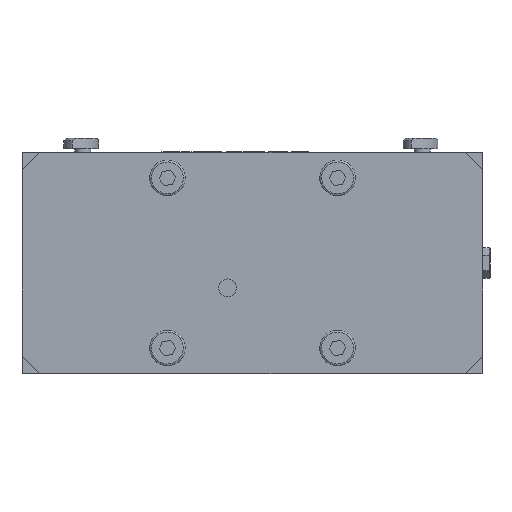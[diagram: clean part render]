
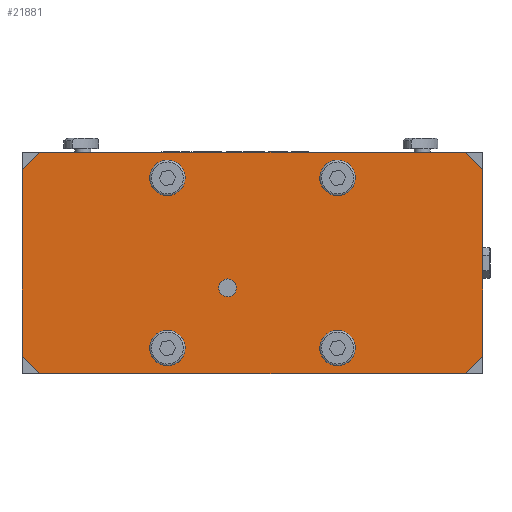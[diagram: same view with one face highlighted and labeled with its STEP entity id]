
A CAD part, front view. The second image highlights one B-rep face of the part: STEP entity #21881.
In plain terms, the highlighted planar face has unit normal (0, -1, 0).
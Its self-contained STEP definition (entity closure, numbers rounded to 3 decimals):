
#4 = EDGE_CURVE ( 'NONE', #32578, #29785, #31750, .T. ) ;
#124 = CARTESIAN_POINT ( 'NONE',  ( 48., 0., -39.5 ) ) ;
#457 = CARTESIAN_POINT ( 'NONE',  ( -14., 0., -14. ) ) ;
#555 = LINE ( 'NONE', #32071, #3822 ) ;
#981 = LINE ( 'NONE', #27353, #27862 ) ;
#1223 = VECTOR ( 'NONE', #14133, 1000. ) ;
#1285 = ORIENTED_EDGE ( 'NONE', *, *, #10963, .T. ) ;
#1445 = CARTESIAN_POINT ( 'NONE',  ( 130., 0., -52.5 ) ) ;
#1495 = PLANE ( 'NONE',  #30636 ) ;
#1787 = VERTEX_POINT ( 'NONE', #1445 ) ;
#1833 = ORIENTED_EDGE ( 'NONE', *, *, #30226, .F. ) ;
#1851 = FACE_OUTER_BOUND ( 'NONE', #12837, .T. ) ;
#3501 = CARTESIAN_POINT ( 'NONE',  ( -14., 0., -19. ) ) ;
#3736 = DIRECTION ( 'NONE',  ( 0., 0., 1. ) ) ;
#3822 = VECTOR ( 'NONE', #26916, 1000. ) ;
#3985 = CARTESIAN_POINT ( 'NONE',  ( -120., 0., -62.5 ) ) ;
#3989 = VERTEX_POINT ( 'NONE', #18550 ) ;
#4595 = CARTESIAN_POINT ( 'NONE',  ( 130., 0., -62.5 ) ) ;
#5204 = DIRECTION ( 'NONE',  ( -1., 0., 0. ) ) ;
#5378 = LINE ( 'NONE', #18787, #26250 ) ;
#5464 = EDGE_CURVE ( 'NONE', #3989, #1787, #555, .T. ) ;
#5658 = CIRCLE ( 'NONE', #24288, 8.5 ) ;
#5765 = DIRECTION ( 'NONE',  ( 0., 0., 1. ) ) ;
#6296 = EDGE_LOOP ( 'NONE', ( #13109 ) ) ;
#6455 = ORIENTED_EDGE ( 'NONE', *, *, #8577, .T. ) ;
#6678 = AXIS2_PLACEMENT_3D ( 'NONE', #33761, #10309, #26053 ) ;
#6684 = EDGE_CURVE ( 'NONE', #29934, #25812, #16881, .T. ) ;
#7157 = LINE ( 'NONE', #4595, #22646 ) ;
#8577 = EDGE_CURVE ( 'NONE', #19518, #29934, #30338, .T. ) ;
#9641 = CARTESIAN_POINT ( 'NONE',  ( -130., 0., -62.5 ) ) ;
#10075 = FACE_BOUND ( 'NONE', #28385, .T. ) ;
#10088 = LINE ( 'NONE', #18158, #13534 ) ;
#10309 = DIRECTION ( 'NONE',  ( 0., 1., 0. ) ) ;
#10564 = CIRCLE ( 'NONE', #29698, 8.5 ) ;
#10963 = EDGE_CURVE ( 'NONE', #12932, #32578, #981, .T. ) ;
#11035 = CARTESIAN_POINT ( 'NONE',  ( 130., 0., 62.5 ) ) ;
#11200 = EDGE_CURVE ( 'NONE', #3989, #25812, #5378, .T. ) ;
#11474 = CARTESIAN_POINT ( 'NONE',  ( -48., 0., 48. ) ) ;
#12254 = ORIENTED_EDGE ( 'NONE', *, *, #6684, .T. ) ;
#12255 = CIRCLE ( 'NONE', #26439, 8.5 ) ;
#12449 = VERTEX_POINT ( 'NONE', #23586 ) ;
#12465 = FACE_BOUND ( 'NONE', #21537, .T. ) ;
#12709 = EDGE_CURVE ( 'NONE', #29785, #19518, #10088, .T. ) ;
#12837 = EDGE_LOOP ( 'NONE', ( #32455, #13462, #6455, #12254, #15936, #20650, #16629, #1285 ) ) ;
#12841 = DIRECTION ( 'NONE',  ( 0., 1., 0. ) ) ;
#12932 = VERTEX_POINT ( 'NONE', #21952 ) ;
#13109 = ORIENTED_EDGE ( 'NONE', *, *, #17485, .T. ) ;
#13331 = CARTESIAN_POINT ( 'NONE',  ( -48., 0., -39.5 ) ) ;
#13462 = ORIENTED_EDGE ( 'NONE', *, *, #12709, .T. ) ;
#13534 = VECTOR ( 'NONE', #31137, 1000. ) ;
#14133 = DIRECTION ( 'NONE',  ( -1., 0., 0. ) ) ;
#14584 = FACE_BOUND ( 'NONE', #18981, .T. ) ;
#14748 = FACE_BOUND ( 'NONE', #26787, .T. ) ;
#15732 = CARTESIAN_POINT ( 'NONE',  ( 48., 0., 56.5 ) ) ;
#15936 = ORIENTED_EDGE ( 'NONE', *, *, #11200, .F. ) ;
#16461 = EDGE_CURVE ( 'NONE', #21007, #21007, #20904, .T. ) ;
#16629 = ORIENTED_EDGE ( 'NONE', *, *, #17472, .F. ) ;
#16688 = ORIENTED_EDGE ( 'NONE', *, *, #21757, .T. ) ;
#16881 = LINE ( 'NONE', #3985, #23561 ) ;
#17116 = DIRECTION ( 'NONE',  ( -0.707, 0., 0.707 ) ) ;
#17325 = VECTOR ( 'NONE', #24888, 1000. ) ;
#17358 = ORIENTED_EDGE ( 'NONE', *, *, #32031, .T. ) ;
#17472 = EDGE_CURVE ( 'NONE', #12932, #1787, #7157, .T. ) ;
#17485 = EDGE_CURVE ( 'NONE', #31281, #31281, #12255, .T. ) ;
#17557 = DIRECTION ( 'NONE',  ( 0.707, 0., -0.707 ) ) ;
#17562 = CIRCLE ( 'NONE', #24081, 5. ) ;
#17766 = ORIENTED_EDGE ( 'NONE', *, *, #16461, .T. ) ;
#17989 = CARTESIAN_POINT ( 'NONE',  ( 48., 0., 48. ) ) ;
#18158 = CARTESIAN_POINT ( 'NONE',  ( -120., 0., 62.5 ) ) ;
#18550 = CARTESIAN_POINT ( 'NONE',  ( 120., 0., -62.5 ) ) ;
#18657 = CARTESIAN_POINT ( 'NONE',  ( -130., 0., 52.5 ) ) ;
#18787 = CARTESIAN_POINT ( 'NONE',  ( 130., 0., -62.5 ) ) ;
#18981 = EDGE_LOOP ( 'NONE', ( #1833 ) ) ;
#19359 = DIRECTION ( 'NONE',  ( 0., 1., 0. ) ) ;
#19518 = VERTEX_POINT ( 'NONE', #18657 ) ;
#20004 = CARTESIAN_POINT ( 'NONE',  ( -120., 0., -62.5 ) ) ;
#20025 = DIRECTION ( 'NONE',  ( 0., 0., 1. ) ) ;
#20057 = CARTESIAN_POINT ( 'NONE',  ( -120., 0., 62.5 ) ) ;
#20650 = ORIENTED_EDGE ( 'NONE', *, *, #5464, .T. ) ;
#20904 = CIRCLE ( 'NONE', #6678, 8.5 ) ;
#20978 = DIRECTION ( 'NONE',  ( 0., 1., 0. ) ) ;
#21007 = VERTEX_POINT ( 'NONE', #124 ) ;
#21516 = DIRECTION ( 'NONE',  ( 0., -1., 0. ) ) ;
#21537 = EDGE_LOOP ( 'NONE', ( #16688 ) ) ;
#21757 = EDGE_CURVE ( 'NONE', #12449, #12449, #5658, .T. ) ;
#21881 = ADVANCED_FACE ( 'NONE', ( #14748, #10075, #25634, #12465, #14584, #1851 ), #1495, .F. ) ;
#21952 = CARTESIAN_POINT ( 'NONE',  ( 130., 0., 52.5 ) ) ;
#22646 = VECTOR ( 'NONE', #25476, 1000. ) ;
#23377 = CARTESIAN_POINT ( 'NONE',  ( -48., 0., -48. ) ) ;
#23561 = VECTOR ( 'NONE', #17557, 1000. ) ;
#23586 = CARTESIAN_POINT ( 'NONE',  ( -48., 0., 56.5 ) ) ;
#24081 = AXIS2_PLACEMENT_3D ( 'NONE', #457, #21516, #24269 ) ;
#24269 = DIRECTION ( 'NONE',  ( 0., 0., -1. ) ) ;
#24288 = AXIS2_PLACEMENT_3D ( 'NONE', #11474, #19359, #3736 ) ;
#24888 = DIRECTION ( 'NONE',  ( 0., 0., -1. ) ) ;
#25476 = DIRECTION ( 'NONE',  ( 0., 0., -1. ) ) ;
#25634 = FACE_BOUND ( 'NONE', #6296, .T. ) ;
#25812 = VERTEX_POINT ( 'NONE', #20004 ) ;
#26053 = DIRECTION ( 'NONE',  ( 0., 0., 1. ) ) ;
#26250 = VECTOR ( 'NONE', #5204, 1000. ) ;
#26439 = AXIS2_PLACEMENT_3D ( 'NONE', #17989, #12841, #5765 ) ;
#26787 = EDGE_LOOP ( 'NONE', ( #17766 ) ) ;
#26916 = DIRECTION ( 'NONE',  ( 0.707, 0., 0.707 ) ) ;
#27353 = CARTESIAN_POINT ( 'NONE',  ( 130., 0., 52.5 ) ) ;
#27862 = VECTOR ( 'NONE', #17116, 1000. ) ;
#28040 = DIRECTION ( 'NONE',  ( 0., 1., 0. ) ) ;
#28385 = EDGE_LOOP ( 'NONE', ( #17358 ) ) ;
#29559 = VERTEX_POINT ( 'NONE', #13331 ) ;
#29698 = AXIS2_PLACEMENT_3D ( 'NONE', #23377, #20978, #31595 ) ;
#29785 = VERTEX_POINT ( 'NONE', #20057 ) ;
#29934 = VERTEX_POINT ( 'NONE', #33721 ) ;
#30226 = EDGE_CURVE ( 'NONE', #31804, #31804, #17562, .T. ) ;
#30338 = LINE ( 'NONE', #9641, #17325 ) ;
#30442 = CARTESIAN_POINT ( 'NONE',  ( 130., 0., -62.5 ) ) ;
#30636 = AXIS2_PLACEMENT_3D ( 'NONE', #30442, #28040, #20025 ) ;
#31137 = DIRECTION ( 'NONE',  ( -0.707, 0., -0.707 ) ) ;
#31281 = VERTEX_POINT ( 'NONE', #15732 ) ;
#31595 = DIRECTION ( 'NONE',  ( 0., 0., 1. ) ) ;
#31750 = LINE ( 'NONE', #11035, #1223 ) ;
#31804 = VERTEX_POINT ( 'NONE', #3501 ) ;
#32031 = EDGE_CURVE ( 'NONE', #29559, #29559, #10564, .T. ) ;
#32071 = CARTESIAN_POINT ( 'NONE',  ( 130., 0., -52.5 ) ) ;
#32455 = ORIENTED_EDGE ( 'NONE', *, *, #4, .T. ) ;
#32578 = VERTEX_POINT ( 'NONE', #32908 ) ;
#32908 = CARTESIAN_POINT ( 'NONE',  ( 120., 0., 62.5 ) ) ;
#33721 = CARTESIAN_POINT ( 'NONE',  ( -130., 0., -52.5 ) ) ;
#33761 = CARTESIAN_POINT ( 'NONE',  ( 48., 0., -48. ) ) ;
